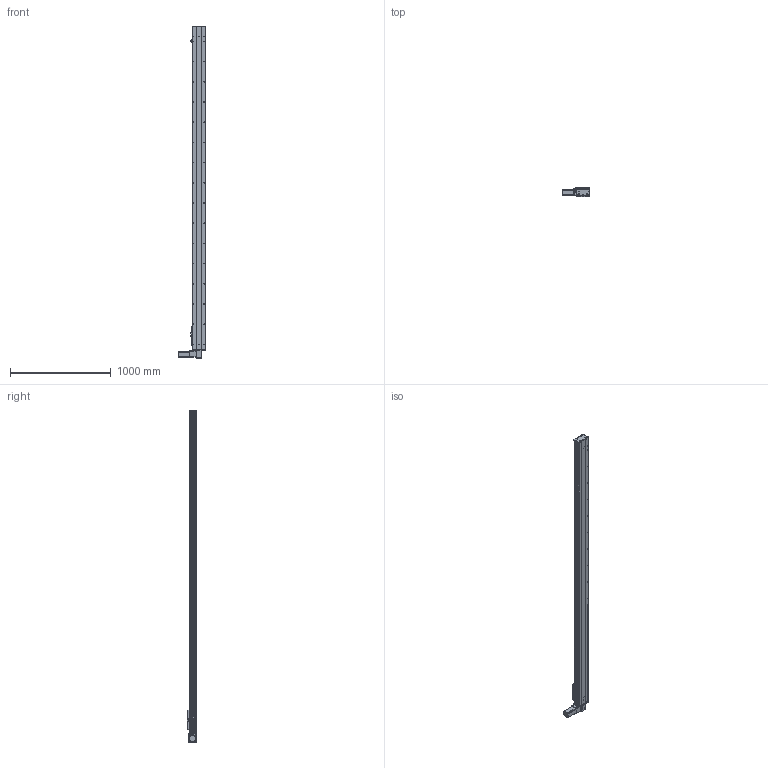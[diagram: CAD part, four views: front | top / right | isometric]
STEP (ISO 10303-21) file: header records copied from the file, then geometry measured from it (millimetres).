
FILE_DESCRIPTION (( 'STEP AP203' ), '1' );
FILE_NAME ('Y135CB-D90-S2900-BD-P400W.STEP', '2020-02-19T06:23:24', ( '微软用户' ), ( '微软中国' ), 'SwSTEP 2.0', 'SolidWorks 2017', '' );
FILE_SCHEMA (( 'CONFIG_CONTROL_DESIGN' ));
Length unit declared in the file: millimetre
Products named in the file (16): 0B-埴倛裔啣; Y10B--々湍喘謫眊--666; 0B-源倛裔啣; 0B-薊粣ん眊; san松下电机400不带刹车----; Y135CB-D90-S2900-BD-P400W; 5CB --掛极耜裔啣-; C-詩湍揤踡え-陔; 135CB--詩湍-CE; Y135CB-耜裔; Y100-135俋离換覜ん--; 135CB---遴掛极.-; Y135C-陔俋离換覜結え-; 35CB---喘謫眊楊擘啣; C-雄赽釱--; 5C--俋欶
Assembly tree (19 placements, depth 2):
  Y135CB-D90-S2900-BD-P400W
    Y135CB-耜裔
    135CB---遴掛极.-
    35CB---喘謫眊楊擘啣
    0B-埴倛裔啣
    0B-源倛裔啣
    san松下电机400不带刹车----
    5CB --掛极耜裔啣-  x2
    C-詩湍揤踡え-陔  x2
    135CB--詩湍-CE
    Y100-135俋离換覜ん--  x3
    Y135C-陔俋离換覜結え-
    5C--俋欶
    C-雄赽釱--
    Y10B--々湍喘謫眊--666
    0B-薊粣ん眊
Bounding box: 272 x 91 x 3288 mm (x, y, z)
Volume: 9320809.8 mm3; surface area: 3653341.5 mm2
Topology: 19 solids, 19 shells, 895 faces, 2446 edges, 1620 vertices
Faces by surface type: cylinder 464, plane 415, cone 16
Entity records: 28026 total; most frequent: CARTESIAN_POINT 4687, DIRECTION 4674, ORIENTED_EDGE 4368, EDGE_CURVE 2184, AXIS2_PLACEMENT_3D 1727, VERTEX_POINT 1448, LINE 1220, VECTOR 1220
